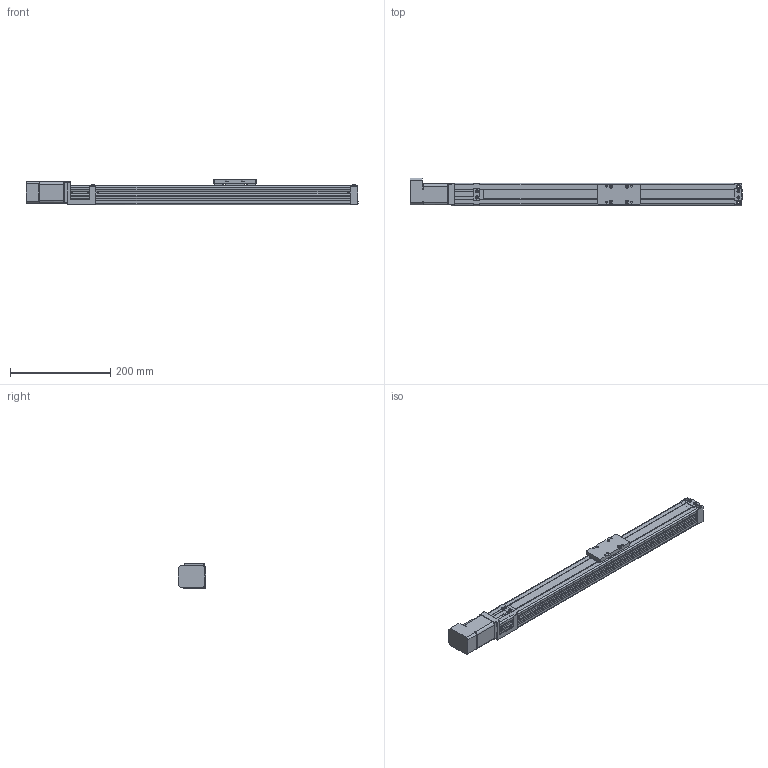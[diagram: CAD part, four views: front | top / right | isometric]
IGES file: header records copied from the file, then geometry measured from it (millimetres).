
Global section: file name: No Iges File Name specified; native system: AutoDesk Inventor R10; preprocessor: AutoDesk Inventor Iges Exporter R10; author: No Author specified; organization: No Organization specified; date: 20110617.145727; units: millimetre
Bounding box: 662.5 x 54.5 x 50 mm (x, y, z)
Surface area: 251034 mm2 (no closed solid volume)
Topology: 0 solids, 0 shells, 894 faces, 5890 edges, 5862 vertices
Faces by surface type: bspline 894
